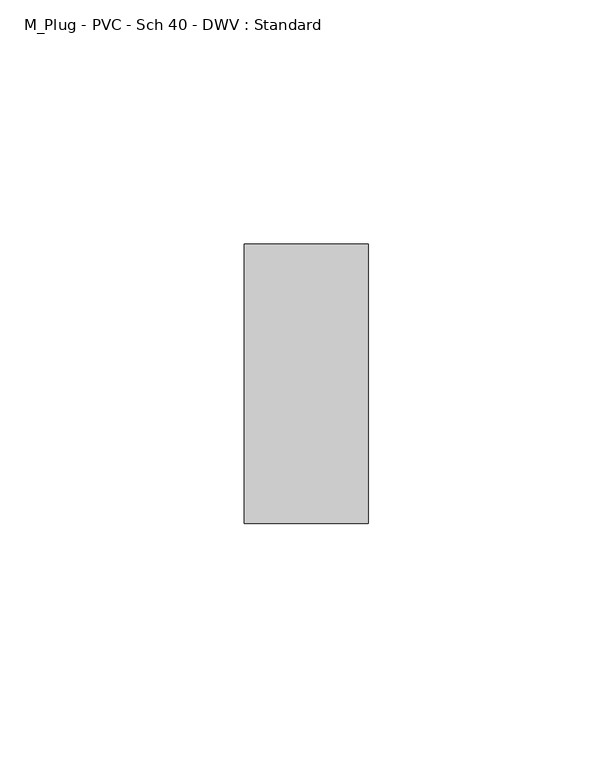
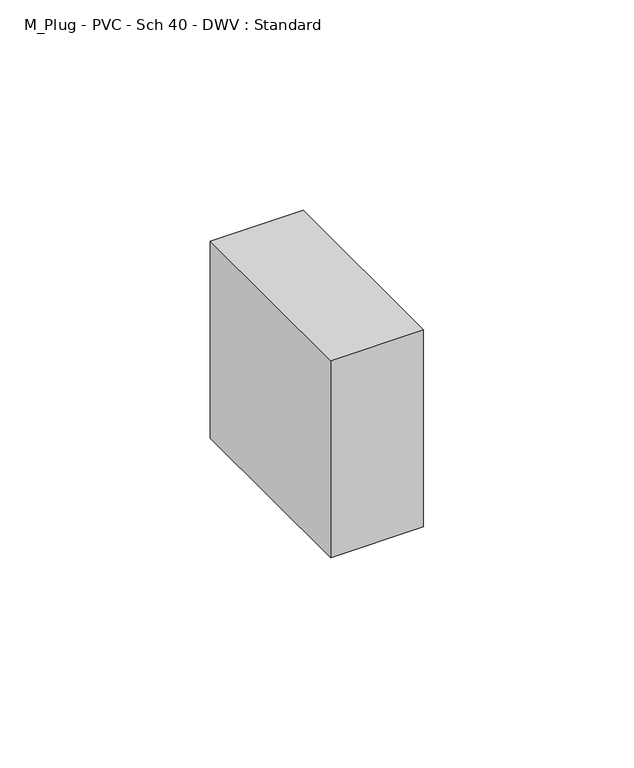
"""IFC4 building model written with IfcOpenShell, lengths in millimetres: pipe fitting geometry, M_Plug - PVC - Sch 40 - DWV : Standard."""

from ifc_helpers import new_model, si_unit, frame, origin, place, context, project, spatial, polyline, outline, extrude, source, transform, mapped, element, save


def m_plug_pvc_sch_40_dwv_standard_6c40de1c(model_context):
    return source(origin(), model_context, "Body", "SweptSolid", [
        extrude(outline(polyline([(25.4, 28.575), (25.4, -28.575), (0.0, -28.575), (0.0, 28.575), (25.4, 28.575)])), frame((0.0, 0.0, -28.575), z_axis=(0.0, 0.0, 1.0), x_axis=(1.0, 0.0, 0.0)), (0.0, 0.0, 1.0), 57.15),
    ])


if __name__ == "__main__":
    model = new_model("IFC4")
    model_context = context("Model", 3, world=origin())
    ifc_project = project(units=[si_unit("LENGTHUNIT", "METRE", prefix="MILLI")], contexts=[model_context])
    site = spatial("IfcSite", under=ifc_project)
    building = spatial("IfcBuilding", under=site)
    placement = place(None, origin())
    m_plug_pvc_sch_40_dwv_standard_shape = m_plug_pvc_sch_40_dwv_standard_6c40de1c(model_context)
    element("IfcPipeFitting", 1, ObjectType="M_Plug - PVC - Sch 40 - DWV : Standard", at=placement, inside=building, context=model_context, shape_type="MappedRepresentation", body=[
        mapped(m_plug_pvc_sch_40_dwv_standard_shape, transform((0.0, 0.0, 0.0), x_axis=(1.0, 0.0, 0.0), y_axis=(0.0, 1.0, 0.0), z_axis=(0.0, 0.0, 1.0))),
    ])
    save(model, "model.ifc")
